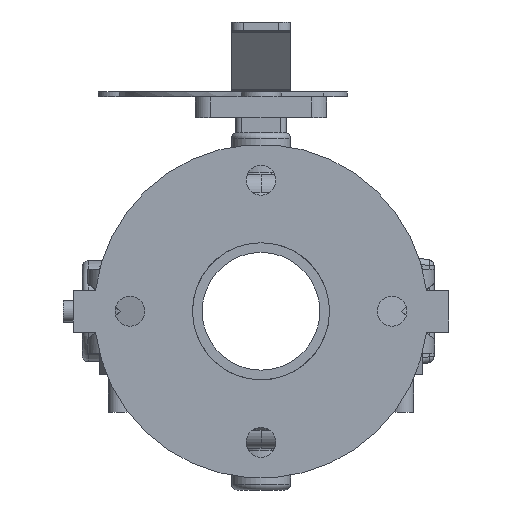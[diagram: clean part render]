
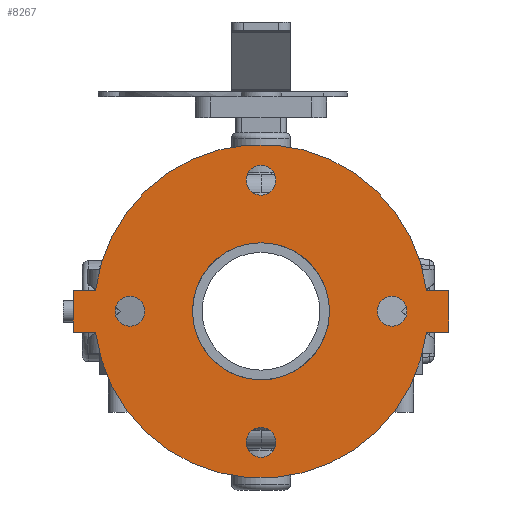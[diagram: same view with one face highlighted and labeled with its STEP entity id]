
A CAD part, front view. The second image highlights one B-rep face of the part: STEP entity #8267.
In plain terms, the highlighted planar face has unit normal (0, -1, 0) as drawn and (0, 0, -1) by its records, which use the part's own axes.
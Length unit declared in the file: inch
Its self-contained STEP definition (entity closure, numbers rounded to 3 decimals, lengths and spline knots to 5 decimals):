
#312=FACE_BOUND('',#1091,.T.);
#313=FACE_BOUND('',#1092,.T.);
#314=FACE_BOUND('',#1093,.T.);
#315=FACE_BOUND('',#1094,.T.);
#316=FACE_BOUND('',#1095,.T.);
#404=PLANE('',#8943);
#627=FACE_OUTER_BOUND('',#1090,.T.);
#1090=EDGE_LOOP('',(#5244,#5245,#5246,#5247,#5248,#5249,#5250,#5251));
#1091=EDGE_LOOP('',(#5252));
#1092=EDGE_LOOP('',(#5253));
#1093=EDGE_LOOP('',(#5254));
#1094=EDGE_LOOP('',(#5255));
#1095=EDGE_LOOP('',(#5256,#5257));
#1645=LINE('',#12442,#2220);
#1646=LINE('',#12444,#2221);
#1647=LINE('',#12446,#2222);
#1648=LINE('',#12450,#2223);
#1649=LINE('',#12452,#2224);
#1650=LINE('',#12453,#2225);
#2220=VECTOR('',#9934,0.3937);
#2221=VECTOR('',#9935,0.3937);
#2222=VECTOR('',#9936,0.3937);
#2223=VECTOR('',#9939,0.3937);
#2224=VECTOR('',#9940,0.3937);
#2225=VECTOR('',#9941,0.3937);
#2792=CIRCLE('',#8933,0.3125);
#2794=CIRCLE('',#8936,0.3125);
#2796=CIRCLE('',#8939,0.3125);
#2798=CIRCLE('',#8942,0.3125);
#2799=CIRCLE('',#8944,3.5);
#2800=CIRCLE('',#8945,3.5);
#2801=CIRCLE('',#8946,1.4375);
#2802=CIRCLE('',#8947,1.4375);
#3251=VERTEX_POINT('',#12416);
#3253=VERTEX_POINT('',#12422);
#3255=VERTEX_POINT('',#12428);
#3257=VERTEX_POINT('',#12434);
#3258=VERTEX_POINT('',#12438);
#3259=VERTEX_POINT('',#12439);
#3260=VERTEX_POINT('',#12441);
#3261=VERTEX_POINT('',#12443);
#3262=VERTEX_POINT('',#12445);
#3263=VERTEX_POINT('',#12447);
#3264=VERTEX_POINT('',#12449);
#3265=VERTEX_POINT('',#12451);
#3266=VERTEX_POINT('',#12454);
#3267=VERTEX_POINT('',#12455);
#4036=EDGE_CURVE('',#3251,#3251,#2792,.T.);
#4039=EDGE_CURVE('',#3253,#3253,#2794,.T.);
#4042=EDGE_CURVE('',#3255,#3255,#2796,.T.);
#4045=EDGE_CURVE('',#3257,#3257,#2798,.T.);
#4046=EDGE_CURVE('',#3258,#3259,#2799,.T.);
#4047=EDGE_CURVE('',#3259,#3260,#1645,.T.);
#4048=EDGE_CURVE('',#3260,#3261,#1646,.T.);
#4049=EDGE_CURVE('',#3261,#3262,#1647,.T.);
#4050=EDGE_CURVE('',#3262,#3263,#2800,.T.);
#4051=EDGE_CURVE('',#3263,#3264,#1648,.T.);
#4052=EDGE_CURVE('',#3264,#3265,#1649,.T.);
#4053=EDGE_CURVE('',#3265,#3258,#1650,.T.);
#4054=EDGE_CURVE('',#3266,#3267,#2801,.T.);
#4055=EDGE_CURVE('',#3267,#3266,#2802,.T.);
#5244=ORIENTED_EDGE('',*,*,#4046,.T.);
#5245=ORIENTED_EDGE('',*,*,#4047,.T.);
#5246=ORIENTED_EDGE('',*,*,#4048,.T.);
#5247=ORIENTED_EDGE('',*,*,#4049,.T.);
#5248=ORIENTED_EDGE('',*,*,#4050,.T.);
#5249=ORIENTED_EDGE('',*,*,#4051,.T.);
#5250=ORIENTED_EDGE('',*,*,#4052,.T.);
#5251=ORIENTED_EDGE('',*,*,#4053,.T.);
#5252=ORIENTED_EDGE('',*,*,#4036,.T.);
#5253=ORIENTED_EDGE('',*,*,#4039,.T.);
#5254=ORIENTED_EDGE('',*,*,#4042,.T.);
#5255=ORIENTED_EDGE('',*,*,#4045,.T.);
#5256=ORIENTED_EDGE('',*,*,#4054,.T.);
#5257=ORIENTED_EDGE('',*,*,#4055,.T.);
#8267=ADVANCED_FACE('',(#627,#312,#313,#314,#315,#316),#404,.T.);
#8933=AXIS2_PLACEMENT_3D('',#12418,#9907,#9908);
#8936=AXIS2_PLACEMENT_3D('',#12424,#9914,#9915);
#8939=AXIS2_PLACEMENT_3D('',#12430,#9921,#9922);
#8942=AXIS2_PLACEMENT_3D('',#12436,#9928,#9929);
#8943=AXIS2_PLACEMENT_3D('',#12437,#9930,#9931);
#8944=AXIS2_PLACEMENT_3D('',#12440,#9932,#9933);
#8945=AXIS2_PLACEMENT_3D('',#12448,#9937,#9938);
#8946=AXIS2_PLACEMENT_3D('',#12456,#9942,#9943);
#8947=AXIS2_PLACEMENT_3D('',#12457,#9944,#9945);
#9907=DIRECTION('center_axis',(0.,0.,1.));
#9908=DIRECTION('ref_axis',(0.,1.,0.));
#9914=DIRECTION('center_axis',(0.,0.,1.));
#9915=DIRECTION('ref_axis',(1.,0.,0.));
#9921=DIRECTION('center_axis',(0.,0.,1.));
#9922=DIRECTION('ref_axis',(0.,-1.,0.));
#9928=DIRECTION('center_axis',(0.,0.,1.));
#9929=DIRECTION('ref_axis',(-1.,0.,0.));
#9930=DIRECTION('center_axis',(0.,0.,-1.));
#9931=DIRECTION('ref_axis',(-1.,0.,0.));
#9932=DIRECTION('center_axis',(0.,0.,-1.));
#9933=DIRECTION('ref_axis',(-1.,0.,0.));
#9934=DIRECTION('',(0.,1.,0.));
#9935=DIRECTION('',(1.,0.,0.));
#9936=DIRECTION('',(0.,-1.,0.));
#9937=DIRECTION('center_axis',(0.,0.,-1.));
#9938=DIRECTION('ref_axis',(-1.,0.,0.));
#9939=DIRECTION('',(0.,-1.,0.));
#9940=DIRECTION('',(-1.,0.,0.));
#9941=DIRECTION('',(0.,1.,0.));
#9942=DIRECTION('center_axis',(0.,0.,1.));
#9943=DIRECTION('ref_axis',(-1.,0.,0.));
#9944=DIRECTION('center_axis',(0.,0.,1.));
#9945=DIRECTION('ref_axis',(-1.,0.,0.));
#12416=CARTESIAN_POINT('',(0.,2.4375,-0.44));
#12418=CARTESIAN_POINT('Origin',(0.,2.75,-0.44));
#12422=CARTESIAN_POINT('',(2.4375,0.,-0.44));
#12424=CARTESIAN_POINT('Origin',(2.75,0.,-0.44));
#12428=CARTESIAN_POINT('',(0.,-2.4375,-0.44));
#12430=CARTESIAN_POINT('Origin',(0.,-2.75,-0.44));
#12434=CARTESIAN_POINT('',(-2.4375,0.,-0.44));
#12436=CARTESIAN_POINT('Origin',(-2.75,0.,-0.44));
#12437=CARTESIAN_POINT('Origin',(0.,0.,-0.44));
#12438=CARTESIAN_POINT('',(-0.44,-3.47223,-0.44));
#12439=CARTESIAN_POINT('',(-0.44,3.47223,-0.44));
#12440=CARTESIAN_POINT('Origin',(0.,0.,-0.44));
#12441=CARTESIAN_POINT('',(-0.44,3.94,-0.44));
#12442=CARTESIAN_POINT('',(-0.44,-3.94,-0.44));
#12443=CARTESIAN_POINT('',(0.44,3.94,-0.44));
#12444=CARTESIAN_POINT('',(-0.44,3.94,-0.44));
#12445=CARTESIAN_POINT('',(0.44,3.47223,-0.44));
#12446=CARTESIAN_POINT('',(0.44,3.94,-0.44));
#12447=CARTESIAN_POINT('',(0.44,-3.47223,-0.44));
#12448=CARTESIAN_POINT('Origin',(0.,0.,-0.44));
#12449=CARTESIAN_POINT('',(0.44,-3.94,-0.44));
#12450=CARTESIAN_POINT('',(0.44,3.94,-0.44));
#12451=CARTESIAN_POINT('',(-0.44,-3.94,-0.44));
#12452=CARTESIAN_POINT('',(0.44,-3.94,-0.44));
#12453=CARTESIAN_POINT('',(-0.44,-3.94,-0.44));
#12454=CARTESIAN_POINT('',(0.44,1.36851,-0.44));
#12455=CARTESIAN_POINT('',(1.4375,0.,-0.44));
#12456=CARTESIAN_POINT('Origin',(0.,0.,-0.44));
#12457=CARTESIAN_POINT('Origin',(0.,0.,-0.44));
